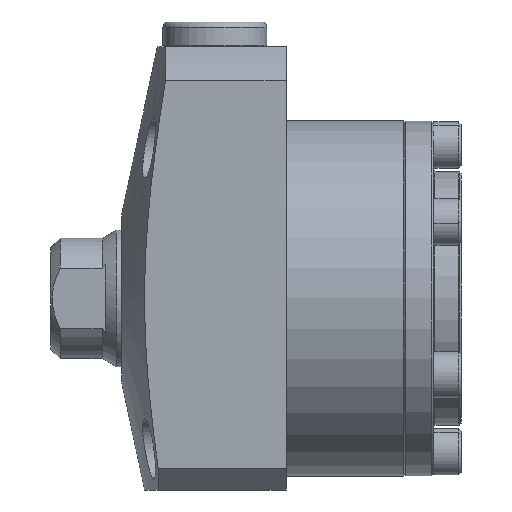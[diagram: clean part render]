
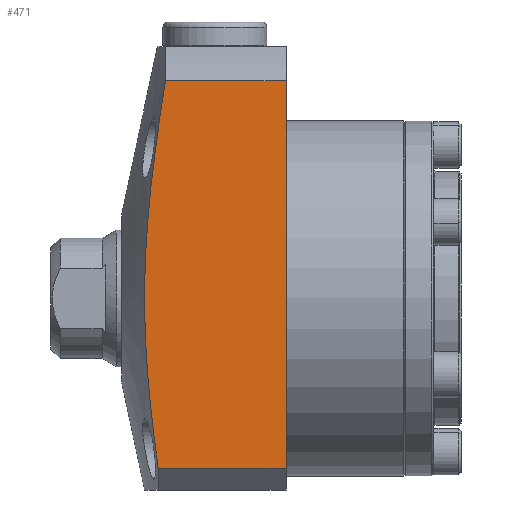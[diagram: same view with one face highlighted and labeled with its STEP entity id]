
A CAD part, left-side view. The second image highlights one B-rep face of the part: STEP entity #471.
In plain terms, the highlighted planar face has unit normal (-1, 0, 0).
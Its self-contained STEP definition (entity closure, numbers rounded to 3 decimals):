
#141 = B_SPLINE_CURVE_WITH_KNOTS ( 'NONE', 3,
 ( #1039, #1049, #1052, #1053, #1054, #1055, #1056, #1057, #1058, #1059, #1060, #1061, #1062, #1063, #1064, #1065, #1066, #1067 ),
 .UNSPECIFIED., .F., .F.,
 ( 4, 2, 2, 2, 2, 2, 2, 2, 4 ),
 ( 0.039, 0.048, 0.057, 0.066, 0.075, 0.084, 0.092, 0.101, 0.11 ),
 .UNSPECIFIED. ) ;
#271 = EDGE_CURVE ( 'NONE', #3158, #3159, #141, .T. ) ;
#282 = EDGE_CURVE ( 'NONE', #3158, #3160, #4594, .T. ) ;
#283 = EDGE_CURVE ( 'NONE', #3162, #3160, #4605, .T. ) ;
#284 = EDGE_CURVE ( 'NONE', #3162, #3159, #4614, .T. ) ;
#471 = ADVANCED_FACE ( 'NONE', ( #3411 ), #3412, .F. ) ;
#776 = EDGE_LOOP ( 'NONE', ( #5282, #5283, #5284, #5285 ) ) ;
#1039 = CARTESIAN_POINT ( 'NONE',  ( -35., 23.357, -31. ) ) ;
#1049 = CARTESIAN_POINT ( 'NONE',  ( -35., 23.771, -28.059 ) ) ;
#1052 = CARTESIAN_POINT ( 'NONE',  ( -35., 24.154, -25.11 ) ) ;
#1053 = CARTESIAN_POINT ( 'NONE',  ( -35., 24.825, -19.212 ) ) ;
#1054 = CARTESIAN_POINT ( 'NONE',  ( -35., 25.112, -16.262 ) ) ;
#1055 = CARTESIAN_POINT ( 'NONE',  ( -35., 25.558, -10.36 ) ) ;
#1056 = CARTESIAN_POINT ( 'NONE',  ( -35., 25.716, -7.408 ) ) ;
#1057 = CARTESIAN_POINT ( 'NONE',  ( -35., 25.874, -1.5 ) ) ;
#1058 = CARTESIAN_POINT ( 'NONE',  ( -35., 25.875, 1.455 ) ) ;
#1059 = CARTESIAN_POINT ( 'NONE',  ( -35., 25.718, 7.369 ) ) ;
#1060 = CARTESIAN_POINT ( 'NONE',  ( -35., 25.56, 10.328 ) ) ;
#1061 = CARTESIAN_POINT ( 'NONE',  ( -35., 25.114, 16.247 ) ) ;
#1062 = CARTESIAN_POINT ( 'NONE',  ( -35., 24.825, 19.211 ) ) ;
#1063 = CARTESIAN_POINT ( 'NONE',  ( -35., 24.153, 25.117 ) ) ;
#1064 = CARTESIAN_POINT ( 'NONE',  ( -35., 23.771, 28.062 ) ) ;
#1065 = CARTESIAN_POINT ( 'NONE',  ( -35., 22.942, 33.938 ) ) ;
#1066 = CARTESIAN_POINT ( 'NONE',  ( -35., 22.497, 36.871 ) ) ;
#1067 = CARTESIAN_POINT ( 'NONE',  ( -35., 22.029, 39.799 ) ) ;
#1796 = CARTESIAN_POINT ( 'NONE',  ( -35., 23.357, -31. ) ) ;
#1797 = CARTESIAN_POINT ( 'NONE',  ( -35., 22.029, 39.799 ) ) ;
#1798 = CARTESIAN_POINT ( 'NONE',  ( -35., 0., -31. ) ) ;
#1800 = CARTESIAN_POINT ( 'NONE',  ( -35., 0., 39.799 ) ) ;
#2344 = AXIS2_PLACEMENT_3D ( 'NONE', #3403, #3414, #3415 ) ;
#2411 = VECTOR ( 'NONE', #4613, 1000. ) ;
#2427 = VECTOR ( 'NONE', #4616, 1000. ) ;
#2504 = VECTOR ( 'NONE', #4611, 1000. ) ;
#3158 = VERTEX_POINT ( 'NONE', #1796 ) ;
#3159 = VERTEX_POINT ( 'NONE', #1797 ) ;
#3160 = VERTEX_POINT ( 'NONE', #1798 ) ;
#3162 = VERTEX_POINT ( 'NONE', #1800 ) ;
#3403 = CARTESIAN_POINT ( 'NONE',  ( -35., 30., 46. ) ) ;
#3411 = FACE_OUTER_BOUND ( 'NONE', #776, .T. ) ;
#3412 = PLANE ( 'NONE',  #2344 ) ;
#3414 = DIRECTION ( 'NONE',  ( 1., 0., 0. ) ) ;
#3415 = DIRECTION ( 'NONE',  ( 0., 0., -1. ) ) ;
#4594 = LINE ( 'NONE', #4610, #2504 ) ;
#4605 = LINE ( 'NONE', #4612, #2411 ) ;
#4610 = CARTESIAN_POINT ( 'NONE',  ( -35., 30., -31. ) ) ;
#4611 = DIRECTION ( 'NONE',  ( 0., -1., 0. ) ) ;
#4612 = CARTESIAN_POINT ( 'NONE',  ( -35., 0., -35. ) ) ;
#4613 = DIRECTION ( 'NONE',  ( 0., 0., -1. ) ) ;
#4614 = LINE ( 'NONE', #4615, #2427 ) ;
#4615 = CARTESIAN_POINT ( 'NONE',  ( -35., 0., 39.799 ) ) ;
#4616 = DIRECTION ( 'NONE',  ( 0., 1., 0. ) ) ;
#5282 = ORIENTED_EDGE ( 'NONE', *, *, #271, .F. ) ;
#5283 = ORIENTED_EDGE ( 'NONE', *, *, #282, .T. ) ;
#5284 = ORIENTED_EDGE ( 'NONE', *, *, #283, .F. ) ;
#5285 = ORIENTED_EDGE ( 'NONE', *, *, #284, .T. ) ;
